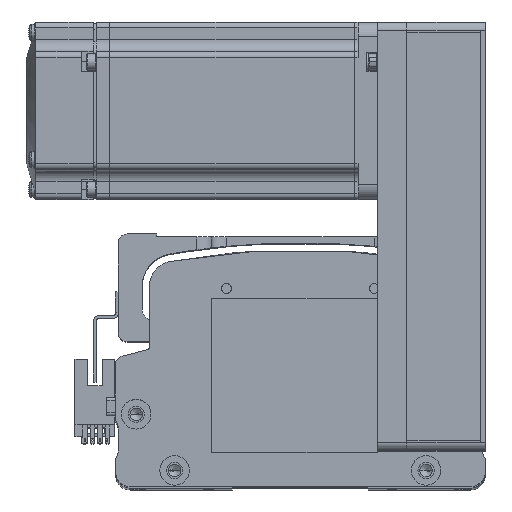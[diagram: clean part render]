
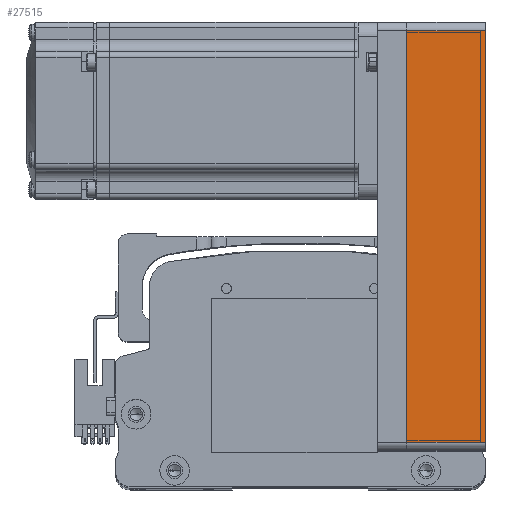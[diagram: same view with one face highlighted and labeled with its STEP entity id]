
A CAD part, top view. The second image highlights one B-rep face of the part: STEP entity #27515.
In plain terms, the highlighted planar face has unit normal (0, 0, 1) as drawn and (0, 1, 0) by its records, which use the part's own axes.
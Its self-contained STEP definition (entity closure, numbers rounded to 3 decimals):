
#2450 = FACE_OUTER_BOUND ( 'NONE', #61369, .T. ) ;
#4200 = CARTESIAN_POINT ( 'NONE',  ( -69.5, 30., 26.5 ) ) ;
#7675 = ORIENTED_EDGE ( 'NONE', *, *, #38003, .F. ) ;
#12246 = CARTESIAN_POINT ( 'NONE',  ( -69.5, 30., 26.5 ) ) ;
#13466 = DIRECTION ( 'NONE',  ( -1., 0., 0. ) ) ;
#16600 = LINE ( 'NONE', #53631, #47538 ) ;
#18304 = VECTOR ( 'NONE', #23820, 1000. ) ;
#22787 = VECTOR ( 'NONE', #41219, 1000. ) ;
#23499 = DIRECTION ( 'NONE',  ( 0., -1., 0. ) ) ;
#23820 = DIRECTION ( 'NONE',  ( 0., 0., -1. ) ) ;
#24576 = CARTESIAN_POINT ( 'NONE',  ( -69.5, 30., 0. ) ) ;
#25343 = LINE ( 'NONE', #25671, #56252 ) ;
#25671 = CARTESIAN_POINT ( 'NONE',  ( 72.5, 30., 0. ) ) ;
#26342 = ORIENTED_EDGE ( 'NONE', *, *, #43423, .T. ) ;
#27515 = ADVANCED_FACE ( 'NONE', ( #2450 ), #29473, .F. ) ;
#29473 = PLANE ( 'NONE',  #52655 ) ;
#32191 = ORIENTED_EDGE ( 'NONE', *, *, #52132, .T. ) ;
#34748 = LINE ( 'NONE', #46344, #18304 ) ;
#38003 = EDGE_CURVE ( 'NONE', #58836, #41930, #16600, .T. ) ;
#39271 = LINE ( 'NONE', #4200, #22787 ) ;
#39811 = CARTESIAN_POINT ( 'NONE',  ( 69.5, 30., 0. ) ) ;
#41219 = DIRECTION ( 'NONE',  ( 0., 0., 1. ) ) ;
#41930 = VERTEX_POINT ( 'NONE', #12246 ) ;
#42932 = ORIENTED_EDGE ( 'NONE', *, *, #68217, .T. ) ;
#43423 = EDGE_CURVE ( 'NONE', #49687, #41930, #39271, .T. ) ;
#46344 = CARTESIAN_POINT ( 'NONE',  ( 69.5, 30., 26.5 ) ) ;
#47538 = VECTOR ( 'NONE', #53904, 1000. ) ;
#49687 = VERTEX_POINT ( 'NONE', #24576 ) ;
#52132 = EDGE_CURVE ( 'NONE', #58836, #56220, #34748, .T. ) ;
#52655 = AXIS2_PLACEMENT_3D ( 'NONE', #60444, #23499, #66665 ) ;
#53631 = CARTESIAN_POINT ( 'NONE',  ( 72.5, 30., 26.5 ) ) ;
#53904 = DIRECTION ( 'NONE',  ( -1., 0., 0. ) ) ;
#56220 = VERTEX_POINT ( 'NONE', #39811 ) ;
#56252 = VECTOR ( 'NONE', #13466, 1000. ) ;
#58836 = VERTEX_POINT ( 'NONE', #65945 ) ;
#60444 = CARTESIAN_POINT ( 'NONE',  ( 72.5, 30., 26.5 ) ) ;
#61369 = EDGE_LOOP ( 'NONE', ( #42932, #26342, #7675, #32191 ) ) ;
#65945 = CARTESIAN_POINT ( 'NONE',  ( 69.5, 30., 26.5 ) ) ;
#66665 = DIRECTION ( 'NONE',  ( 1., 0., 0. ) ) ;
#68217 = EDGE_CURVE ( 'NONE', #56220, #49687, #25343, .T. ) ;
